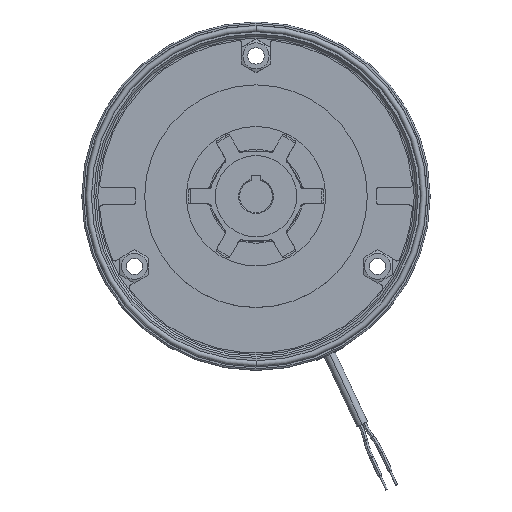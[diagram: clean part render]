
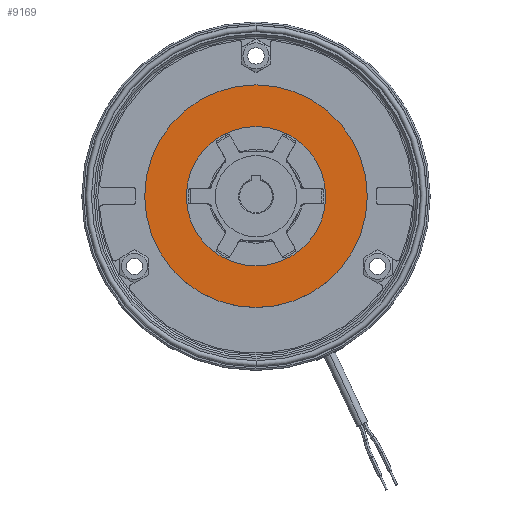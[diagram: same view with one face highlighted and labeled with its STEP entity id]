
A CAD part, top view. The second image highlights one B-rep face of the part: STEP entity #9169.
In plain terms, the highlighted planar face has unit normal (0, 0, 1).
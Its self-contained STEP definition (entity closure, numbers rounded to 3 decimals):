
#216 = CIRCLE ( 'NONE', #8683, 36. ) ;
#916 = ORIENTED_EDGE ( 'NONE', *, *, #10020, .F. ) ;
#1137 = CARTESIAN_POINT ( 'NONE',  ( 36., 0., 6. ) ) ;
#1162 = DIRECTION ( 'NONE',  ( 0., 0., -1. ) ) ;
#1783 = CARTESIAN_POINT ( 'NONE',  ( 0., 0., 6. ) ) ;
#2293 = VERTEX_POINT ( 'NONE', #16304 ) ;
#2441 = FACE_BOUND ( 'NONE', #8082, .T. ) ;
#2781 = DIRECTION ( 'NONE',  ( 0., 0., 1. ) ) ;
#2830 = CIRCLE ( 'NONE', #3599, 36. ) ;
#3272 = VERTEX_POINT ( 'NONE', #12043 ) ;
#3599 = AXIS2_PLACEMENT_3D ( 'NONE', #1783, #6639, #13247 ) ;
#3629 = DIRECTION ( 'NONE',  ( -1., 0., 0. ) ) ;
#3869 = AXIS2_PLACEMENT_3D ( 'NONE', #13963, #2781, #12825 ) ;
#4251 = CARTESIAN_POINT ( 'NONE',  ( 0., 0., 6. ) ) ;
#4595 = VERTEX_POINT ( 'NONE', #1137 ) ;
#4906 = EDGE_CURVE ( 'NONE', #4595, #8904, #2830, .T. ) ;
#5332 = AXIS2_PLACEMENT_3D ( 'NONE', #4251, #10310, #10475 ) ;
#5505 = CIRCLE ( 'NONE', #15769, 57.5 ) ;
#5974 = EDGE_CURVE ( 'NONE', #2293, #3272, #12449, .T. ) ;
#6200 = ORIENTED_EDGE ( 'NONE', *, *, #5974, .F. ) ;
#6548 = EDGE_CURVE ( 'NONE', #3272, #2293, #5505, .T. ) ;
#6639 = DIRECTION ( 'NONE',  ( 0., 0., 1. ) ) ;
#6909 = ORIENTED_EDGE ( 'NONE', *, *, #4906, .F. ) ;
#7192 = DIRECTION ( 'NONE',  ( 0., 0., 1. ) ) ;
#7423 = CARTESIAN_POINT ( 'NONE',  ( 0., 0., 6. ) ) ;
#8082 = EDGE_LOOP ( 'NONE', ( #916, #6909 ) ) ;
#8683 = AXIS2_PLACEMENT_3D ( 'NONE', #13453, #7192, #12067 ) ;
#8904 = VERTEX_POINT ( 'NONE', #12387 ) ;
#9169 = ADVANCED_FACE ( 'NONE', ( #11248, #2441 ), #16302, .T. ) ;
#10020 = EDGE_CURVE ( 'NONE', #8904, #4595, #216, .T. ) ;
#10310 = DIRECTION ( 'NONE',  ( 0., 0., -1. ) ) ;
#10475 = DIRECTION ( 'NONE',  ( -1., 0., 0. ) ) ;
#11248 = FACE_OUTER_BOUND ( 'NONE', #12274, .T. ) ;
#12043 = CARTESIAN_POINT ( 'NONE',  ( -57.5, 0., 6. ) ) ;
#12067 = DIRECTION ( 'NONE',  ( 1., 0., 0. ) ) ;
#12274 = EDGE_LOOP ( 'NONE', ( #14488, #6200 ) ) ;
#12387 = CARTESIAN_POINT ( 'NONE',  ( -36., 0., 6. ) ) ;
#12449 = CIRCLE ( 'NONE', #5332, 57.5 ) ;
#12825 = DIRECTION ( 'NONE',  ( 1., 0., 0. ) ) ;
#13247 = DIRECTION ( 'NONE',  ( 1., 0., 0. ) ) ;
#13453 = CARTESIAN_POINT ( 'NONE',  ( 0., 0., 6. ) ) ;
#13963 = CARTESIAN_POINT ( 'NONE',  ( 0., 57.5, 6. ) ) ;
#14488 = ORIENTED_EDGE ( 'NONE', *, *, #6548, .F. ) ;
#15769 = AXIS2_PLACEMENT_3D ( 'NONE', #7423, #1162, #3629 ) ;
#16302 = PLANE ( 'NONE',  #3869 ) ;
#16304 = CARTESIAN_POINT ( 'NONE',  ( 57.5, 0., 6. ) ) ;
